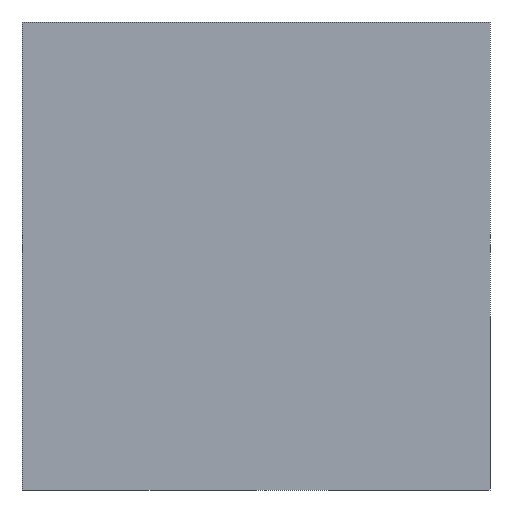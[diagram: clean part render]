
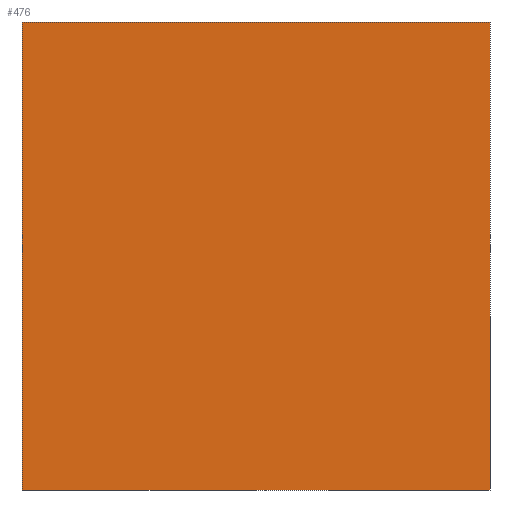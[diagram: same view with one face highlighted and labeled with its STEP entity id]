
A CAD part, left-side view. The second image highlights one B-rep face of the part: STEP entity #476.
In plain terms, the highlighted planar face has unit normal (-1, 0, 0).
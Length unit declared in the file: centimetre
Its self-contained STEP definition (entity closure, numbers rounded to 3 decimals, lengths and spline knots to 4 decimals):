
#6 = EDGE_LOOP ( 'NONE', ( #125, #504, #282, #337 ) ) ;
#18 = DIRECTION ( 'NONE',  ( 0., -1., 0. ) ) ;
#53 = CARTESIAN_POINT ( 'NONE',  ( 0., 0., 1000. ) ) ;
#84 = VERTEX_POINT ( 'NONE', #53 ) ;
#90 = EDGE_CURVE ( 'NONE', #135, #278, #330, .T. ) ;
#125 = ORIENTED_EDGE ( 'NONE', *, *, #235, .T. ) ;
#135 = VERTEX_POINT ( 'NONE', #223 ) ;
#150 = CARTESIAN_POINT ( 'NONE',  ( 0., 0., 0. ) ) ;
#172 = CARTESIAN_POINT ( 'NONE',  ( 0., 1000., 0. ) ) ;
#175 = LINE ( 'NONE', #172, #383 ) ;
#179 = LINE ( 'NONE', #285, #189 ) ;
#182 = DIRECTION ( 'NONE',  ( 0., 0., -1. ) ) ;
#183 = LINE ( 'NONE', #408, #246 ) ;
#189 = VECTOR ( 'NONE', #490, 100. ) ;
#213 = DIRECTION ( 'NONE',  ( 0., 0., -1. ) ) ;
#223 = CARTESIAN_POINT ( 'NONE',  ( 0., 1000., 1000. ) ) ;
#235 = EDGE_CURVE ( 'NONE', #278, #396, #175, .T. ) ;
#246 = VECTOR ( 'NONE', #300, 100. ) ;
#255 = EDGE_CURVE ( 'NONE', #84, #396, #183, .T. ) ;
#262 = CARTESIAN_POINT ( 'NONE',  ( 0., 1000., 1000. ) ) ;
#278 = VERTEX_POINT ( 'NONE', #336 ) ;
#281 = EDGE_CURVE ( 'NONE', #135, #84, #179, .T. ) ;
#282 = ORIENTED_EDGE ( 'NONE', *, *, #281, .F. ) ;
#285 = CARTESIAN_POINT ( 'NONE',  ( 0., 1000., 1000. ) ) ;
#300 = DIRECTION ( 'NONE',  ( 0., 0., -1. ) ) ;
#308 = PLANE ( 'NONE',  #348 ) ;
#330 = LINE ( 'NONE', #416, #412 ) ;
#336 = CARTESIAN_POINT ( 'NONE',  ( 0., 1000., 0. ) ) ;
#337 = ORIENTED_EDGE ( 'NONE', *, *, #90, .T. ) ;
#338 = FACE_OUTER_BOUND ( 'NONE', #6, .T. ) ;
#348 = AXIS2_PLACEMENT_3D ( 'NONE', #262, #462, #213 ) ;
#383 = VECTOR ( 'NONE', #18, 100. ) ;
#396 = VERTEX_POINT ( 'NONE', #150 ) ;
#408 = CARTESIAN_POINT ( 'NONE',  ( 0., 0., 1000. ) ) ;
#412 = VECTOR ( 'NONE', #182, 100. ) ;
#416 = CARTESIAN_POINT ( 'NONE',  ( 0., 1000., 1000. ) ) ;
#462 = DIRECTION ( 'NONE',  ( 1., 0., 0. ) ) ;
#476 = ADVANCED_FACE ( 'NONE', ( #338 ), #308, .F. ) ;
#490 = DIRECTION ( 'NONE',  ( 0., -1., 0. ) ) ;
#504 = ORIENTED_EDGE ( 'NONE', *, *, #255, .F. ) ;
